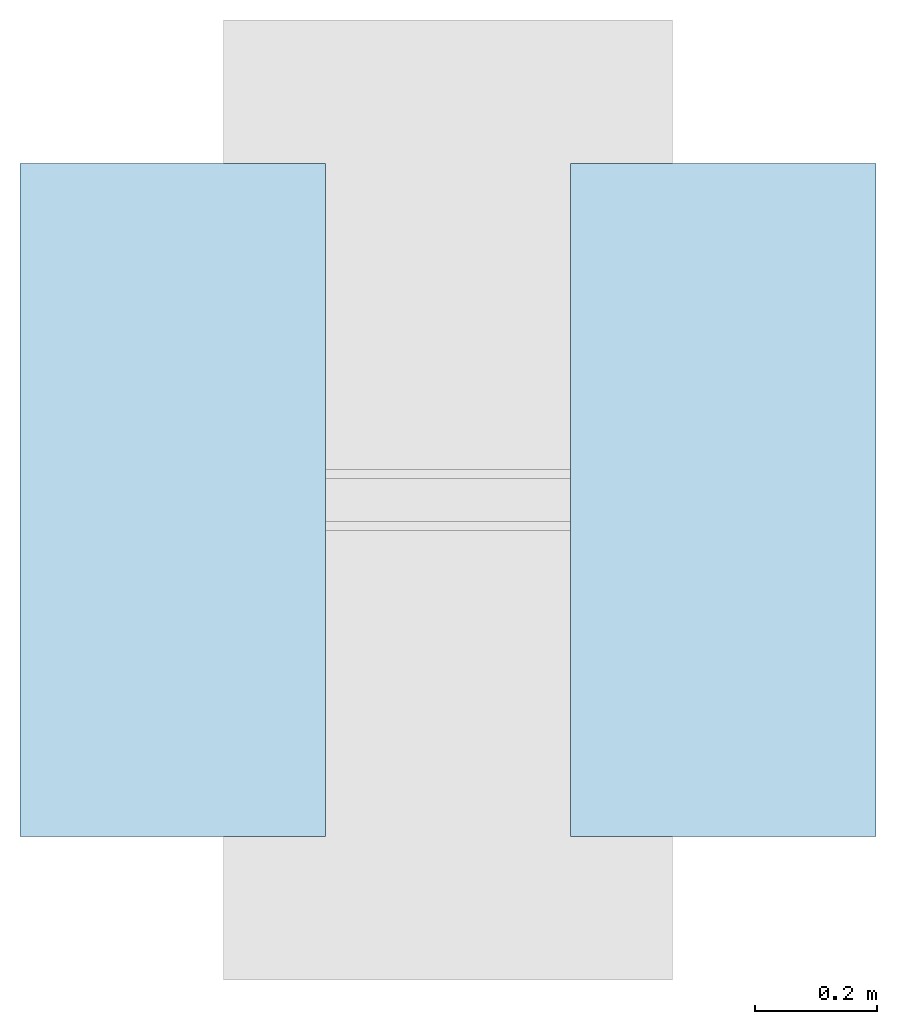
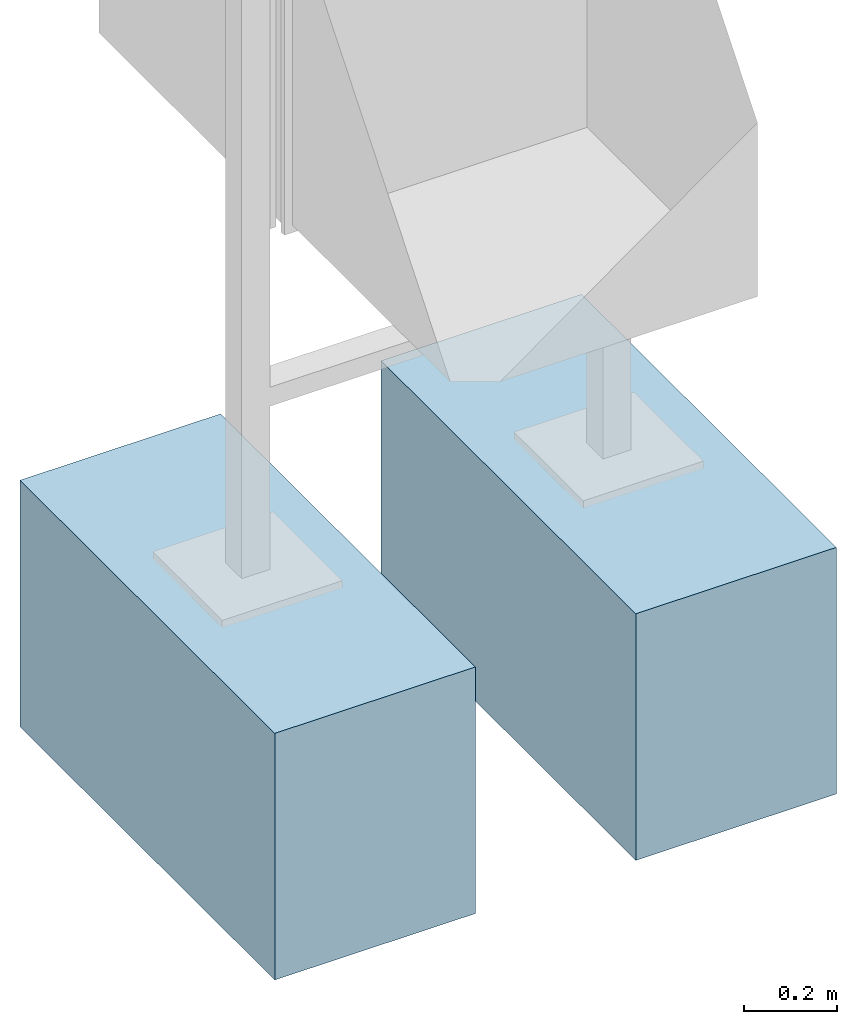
# One storey, incomplete: 2 slabs.
"""IFC4 building model written with IfcOpenShell, lengths in metres."""

from ifc_helpers import new_model, entity, si_unit, converted_unit, direction, frame, frame_2d, origin, origin_2d_with_axis, place, context, subcontext, project, spatial, rectangle, extrude, material, type_object, element, save


model = new_model("IFC4")

# Units and contexts
model_context = context("Model", 3, precision=1e-05, world=origin(), true_north=direction((6.123031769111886e-17, 1.0)))
body_context = subcontext(model_context, "Body", "Model", "MODEL_VIEW")
ifc_project = project(units=[si_unit("LENGTHUNIT", "METRE"), converted_unit("PLANEANGLEUNIT", "DEGREE", entity("IfcPlaneAngleMeasure", 0.017453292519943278), si_unit("PLANEANGLEUNIT", "RADIAN"), dimensions=[0, 0, 0, 0, 0, 0, 0]), si_unit("AREAUNIT", "SQUARE_METRE")], contexts=[model_context])

# Site, building, storey
site_placement = place(None, origin())
site = spatial("IfcSite", under=ifc_project, at=site_placement, Name="Default", CompositionType="ELEMENT")
building_placement = place(site_placement, origin())
building = spatial("IfcBuilding", under=site, at=building_placement, CompositionType="ELEMENT")
storey_placement = place(building_placement, origin())
storey = spatial("IfcBuildingStorey", under=building, at=storey_placement, Name="DB_Bezugshoehe_max_Bahnsteigkante", CompositionType="ELEMENT", Elevation=0.0)

# Slabs
ifc_material = material(Name="DB_Ortbeton", Category="DB_Beton")
slab_type = type_object("IfcSlabType", Name="DB_Vitrine_Fundament_kurz:DB_Vitrine_Fundament_kurz", PredefinedType="BASESLAB", material=ifc_material)
slab_1_placement = place(storey_placement, origin())
element("IfcSlab", 1, at=slab_1_placement, inside=storey, type_object=slab_type, Name="DB_Vitrine_Fundament_kurz:DB_Vitrine_Fundament_kurz", ObjectType="DB_Vitrine_Fundament_kurz:DB_Vitrine_Fundament_kurz", PredefinedType="BASESLAB", context=body_context, shape_type="SweptSolid", body=[
    extrude(rectangle(XDim=1.1, YDim=0.5, at=origin_2d_with_axis()), frame((0.0, 0.0, 0.04999999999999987), z_axis=(0.0, 0.0, 1.0), x_axis=(0.0, 1.0, 0.0)), (0.0, 0.0, 1.0), 0.5999999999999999),
    extrude(rectangle(XDim=0.5, YDim=1.1, at=frame_2d((2.7755575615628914e-17, 0.0), x_axis=(1.0, 0.0))), frame((0.0, 0.0, 0.0), z_axis=(0.0, 0.0, 1.0), x_axis=(-1.0, 0.0, 0.0)), (0.0, 0.0, 1.0), 0.04999999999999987),
])
slab_2_placement = place(storey_placement, origin())
element("IfcSlab", 2, at=slab_2_placement, inside=storey, type_object=slab_type, Name="DB_Vitrine_Fundament_kurz:DB_Vitrine_Fundament_kurz", ObjectType="DB_Vitrine_Fundament_kurz:DB_Vitrine_Fundament_kurz", PredefinedType="BASESLAB", context=body_context, shape_type="SweptSolid", body=[
    extrude(rectangle(XDim=1.1, YDim=0.5, at=origin_2d_with_axis()), frame((0.9000000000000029, 0.0, 0.04999999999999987), z_axis=(0.0, 0.0, 1.0), x_axis=(0.0, 1.0, 0.0)), (0.0, 0.0, 1.0), 0.5999999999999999),
    extrude(rectangle(XDim=0.5, YDim=1.1, at=origin_2d_with_axis()), frame((0.9000000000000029, 0.0, 0.0), z_axis=(0.0, 0.0, 1.0), x_axis=(-1.0, 0.0, 0.0)), (0.0, 0.0, 1.0), 0.04999999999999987),
])

save(model, "model.ifc")
